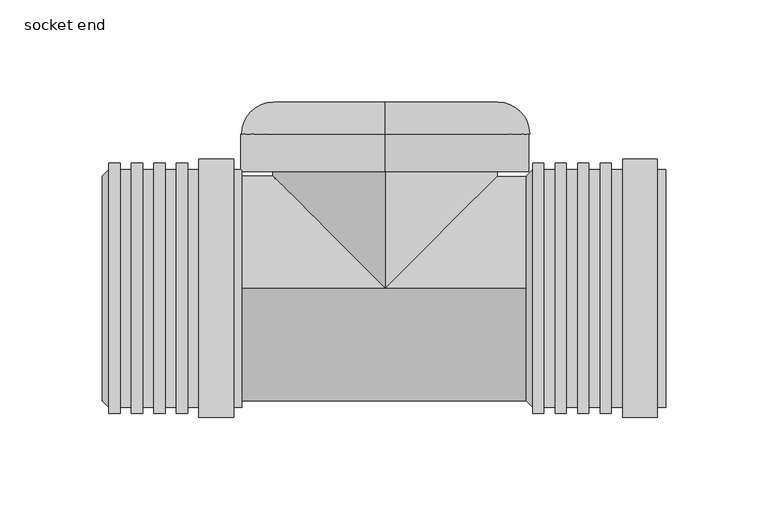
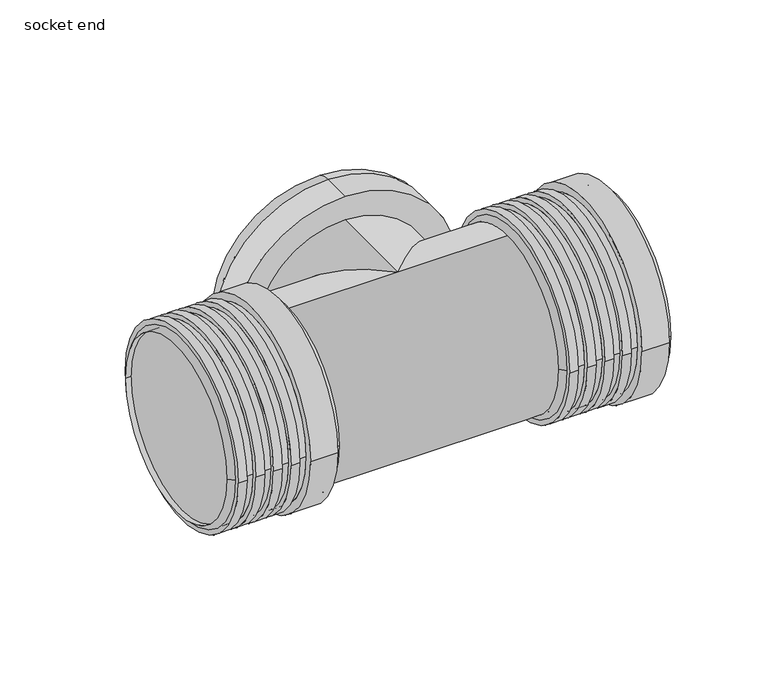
"""IFC4 building model written with IfcOpenShell, lengths in millimetres: pipe fitting geometry, Wavin SiTech+ RU Reinigungsrohr : socket end."""

from ifc_helpers import new_model, si_unit, point, frame, origin, place, context, project, spatial, polyline, circle_curve, ellipse_curve, trimmed, source, transform, mapped, element, save
from ifc_brep_helpers import plane_surface, cylinder_surface, revolved_surface, advanced_brep


def socket_end_d7354801(model_context):
    return source(origin(), model_context, "Body", "AdvancedBrep", [
        advanced_brep(
        [(68.789856, 55.0, 0.0), (68.789856, -55.0, 0.0), (137.0, -55.0, 0.0), (137.0, 55.0, 0.0), (72.0, 58.1, 0.0), (72.0, -58.1, 0.0), (77.5, 61.2, 0.0), (77.5, -61.2, 0.0), (72.0, -61.2, 0.0), (72.0, 61.2, 0.0), (83.0, 58.1, 0.0), (83.0, -58.1, 0.0), (77.5, -58.1, 0.0), (77.5, 58.1, 0.0), (88.5, 61.2, 0.0), (88.5, -61.2, 0.0), (83.0, -61.2, 0.0), (83.0, 61.2, 0.0), (94.0, 58.1, 0.0), (94.0, -58.1, 0.0), (88.5, -58.1, 0.0), (88.5, 58.1, 0.0), (99.5, 61.2, 0.0), (99.5, -61.2, 0.0), (94.0, -61.2, 0.0), (94.0, 61.2, 0.0), (105.0, 58.1, 0.0), (105.0, -58.1, 0.0), (99.5, -58.1, 0.0), (99.5, 58.1, 0.0), (110.5, 61.2, 0.0), (110.5, -61.2, 0.0), (105.0, -61.2, 0.0), (105.0, 61.2, 0.0), (116.0, 58.1, 0.0), (116.0, -58.1, 0.0), (110.5, -58.1, 0.0), (110.5, 58.1, 0.0), (133.0, 63.2, 0.0), (133.0, -63.2, 0.0), (116.0, -63.2, 0.0), (116.0, 63.2, 0.0), (137.0, 58.1, 0.0), (137.0, -58.1, 0.0), (133.0, -58.1, 0.0), (133.0, 58.1, 0.0)],
        [
            (0, 1, circle_curve(frame((68.789856, 0.0, 0.0), z_axis=(-1.0, 0.0, 0.0), x_axis=(0.0, -1.0000000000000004, 0.0)), 55.0)),
            (1, 2),
            (2, 3, circle_curve(frame((137.0, 0.0, 0.0), z_axis=(1.0, 0.0, 0.0), x_axis=(0.0, -1.0000000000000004, 0.0)), 55.0)),
            (3, 0),
            (4, 5, circle_curve(frame((72.0, 0.0, 0.0), z_axis=(-1.0, 0.0, 0.0), x_axis=(0.0, -1.0000000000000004, 0.0)), 58.1)),
            (5, 1),
            (0, 4),
            (6, 7, circle_curve(frame((77.5, 0.0, 0.0), z_axis=(-1.0, 0.0, 0.0), x_axis=(0.0, -1.0000000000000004, 0.0)), 61.2)),
            (7, 8),
            (8, 9, circle_curve(frame((72.0, 0.0, 0.0), z_axis=(1.0, 0.0, 0.0), x_axis=(0.0, -1.0000000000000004, 0.0)), 61.2)),
            (9, 6),
            (10, 11, circle_curve(frame((83.0, 0.0, 0.0), z_axis=(-1.0, 0.0, 0.0), x_axis=(0.0, -1.0000000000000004, 0.0)), 58.1)),
            (11, 12),
            (12, 13, circle_curve(frame((77.5, 0.0, 0.0), z_axis=(1.0, 0.0, 0.0), x_axis=(0.0, -1.0000000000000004, 0.0)), 58.1)),
            (13, 10),
            (14, 15, circle_curve(frame((88.5, 0.0, 0.0), z_axis=(-1.0, 0.0, 0.0), x_axis=(0.0, -1.0000000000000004, 0.0)), 61.2)),
            (15, 16),
            (16, 17, circle_curve(frame((83.0, 0.0, 0.0), z_axis=(1.0, 0.0, 0.0), x_axis=(0.0, -1.0000000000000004, 0.0)), 61.2)),
            (17, 14),
            (18, 19, circle_curve(frame((94.0, 0.0, 0.0), z_axis=(-1.0, 0.0, 0.0), x_axis=(0.0, -1.0000000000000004, 0.0)), 58.1)),
            (19, 20),
            (20, 21, circle_curve(frame((88.5, 0.0, 0.0), z_axis=(1.0, 0.0, 0.0), x_axis=(0.0, -1.0000000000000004, 0.0)), 58.1)),
            (21, 18),
            (22, 23, circle_curve(frame((99.5, 0.0, 0.0), z_axis=(-1.0, 0.0, 0.0), x_axis=(0.0, -1.0000000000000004, 0.0)), 61.2)),
            (23, 24),
            (24, 25, circle_curve(frame((94.0, 0.0, 0.0), z_axis=(1.0, 0.0, 0.0), x_axis=(0.0, -1.0000000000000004, 0.0)), 61.2)),
            (25, 22),
            (26, 27, circle_curve(frame((105.0, 0.0, 0.0), z_axis=(-1.0, 0.0, 0.0), x_axis=(0.0, -1.0000000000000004, 0.0)), 58.1)),
            (27, 28),
            (28, 29, circle_curve(frame((99.5, 0.0, 0.0), z_axis=(1.0, 0.0, 0.0), x_axis=(0.0, -1.0000000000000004, 0.0)), 58.1)),
            (29, 26),
            (30, 31, circle_curve(frame((110.5, 0.0, 0.0), z_axis=(-1.0, 0.0, 0.0), x_axis=(0.0, -1.0000000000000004, 0.0)), 61.2)),
            (31, 32),
            (32, 33, circle_curve(frame((105.0, 0.0, 0.0), z_axis=(1.0, 0.0, 0.0), x_axis=(0.0, -1.0000000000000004, 0.0)), 61.2)),
            (33, 30),
            (34, 35, circle_curve(frame((116.0, 0.0, 0.0), z_axis=(-1.0, 0.0, 0.0), x_axis=(0.0, -1.0000000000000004, 0.0)), 58.1)),
            (35, 36),
            (36, 37, circle_curve(frame((110.5, 0.0, 0.0), z_axis=(1.0, 0.0, 0.0), x_axis=(0.0, -1.0000000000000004, 0.0)), 58.1)),
            (37, 34),
            (38, 39, circle_curve(frame((133.0, 0.0, 0.0), z_axis=(-1.0, 0.0, 0.0), x_axis=(0.0, -1.0000000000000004, 0.0)), 63.2)),
            (39, 40),
            (40, 41, circle_curve(frame((116.0, 0.0, 0.0), z_axis=(1.0, 0.0, 0.0), x_axis=(0.0, -1.0000000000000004, 0.0)), 63.2)),
            (41, 38),
            (42, 43, circle_curve(frame((137.0, 0.0, 0.0), z_axis=(-1.0, 0.0, 0.0), x_axis=(0.0, -1.0000000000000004, 0.0)), 58.1)),
            (43, 44),
            (44, 45, circle_curve(frame((133.0, 0.0, 0.0), z_axis=(1.0, 0.0, 0.0), x_axis=(0.0, -1.0000000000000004, 0.0)), 58.1)),
            (45, 42),
            (1, 0, circle_curve(frame((68.789856, 0.0, 0.0), z_axis=(-1.0, 0.0, 0.0), x_axis=(0.0, 1.0000000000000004, 0.0)), 55.0)),
            (3, 2, circle_curve(frame((137.0, 0.0, 0.0), z_axis=(1.0, 0.0, 0.0), x_axis=(0.0, 1.0000000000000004, 0.0)), 55.0)),
            (5, 4, circle_curve(frame((72.0, 0.0, 0.0), z_axis=(-1.0, 0.0, 0.0), x_axis=(0.0, 1.0000000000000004, 0.0)), 58.1)),
            (8, 9, circle_curve(frame((72.0, 0.0, 0.0), z_axis=(-1.0, 0.0, 0.0), x_axis=(0.0, 1.0000000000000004, 0.0)), 61.2)),
            (7, 6, circle_curve(frame((77.5, 0.0, 0.0), z_axis=(-1.0, 0.0, 0.0), x_axis=(0.0, 1.0000000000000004, 0.0)), 61.2)),
            (12, 13, circle_curve(frame((77.5, 0.0, 0.0), z_axis=(-1.0, 0.0, 0.0), x_axis=(0.0, 1.0000000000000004, 0.0)), 58.1)),
            (11, 10, circle_curve(frame((83.0, 0.0, 0.0), z_axis=(-1.0, 0.0, 0.0), x_axis=(0.0, 1.0000000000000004, 0.0)), 58.1)),
            (16, 17, circle_curve(frame((83.0, 0.0, 0.0), z_axis=(-1.0, 0.0, 0.0), x_axis=(0.0, 1.0000000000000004, 0.0)), 61.2)),
            (15, 14, circle_curve(frame((88.5, 0.0, 0.0), z_axis=(-1.0, 0.0, 0.0), x_axis=(0.0, 1.0000000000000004, 0.0)), 61.2)),
            (20, 21, circle_curve(frame((88.5, 0.0, 0.0), z_axis=(-1.0, 0.0, 0.0), x_axis=(0.0, 1.0000000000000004, 0.0)), 58.1)),
            (19, 18, circle_curve(frame((94.0, 0.0, 0.0), z_axis=(-1.0, 0.0, 0.0), x_axis=(0.0, 1.0000000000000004, 0.0)), 58.1)),
            (24, 25, circle_curve(frame((94.0, 0.0, 0.0), z_axis=(-1.0, 0.0, 0.0), x_axis=(0.0, 1.0000000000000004, 0.0)), 61.2)),
            (23, 22, circle_curve(frame((99.5, 0.0, 0.0), z_axis=(-1.0, 0.0, 0.0), x_axis=(0.0, 1.0000000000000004, 0.0)), 61.2)),
            (28, 29, circle_curve(frame((99.5, 0.0, 0.0), z_axis=(-1.0, 0.0, 0.0), x_axis=(0.0, 1.0000000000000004, 0.0)), 58.1)),
            (27, 26, circle_curve(frame((105.0, 0.0, 0.0), z_axis=(-1.0, 0.0, 0.0), x_axis=(0.0, 1.0000000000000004, 0.0)), 58.1)),
            (32, 33, circle_curve(frame((105.0, 0.0, 0.0), z_axis=(-1.0, 0.0, 0.0), x_axis=(0.0, 1.0000000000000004, 0.0)), 61.2)),
            (31, 30, circle_curve(frame((110.5, 0.0, 0.0), z_axis=(-1.0, 0.0, 0.0), x_axis=(0.0, 1.0000000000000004, 0.0)), 61.2)),
            (36, 37, circle_curve(frame((110.5, 0.0, 0.0), z_axis=(-1.0, 0.0, 0.0), x_axis=(0.0, 1.0000000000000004, 0.0)), 58.1)),
            (35, 34, circle_curve(frame((116.0, 0.0, 0.0), z_axis=(-1.0, 0.0, 0.0), x_axis=(0.0, 1.0000000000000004, 0.0)), 58.1)),
            (40, 41, circle_curve(frame((116.0, 0.0, 0.0), z_axis=(-1.0, 0.0, 0.0), x_axis=(0.0, 1.0000000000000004, 0.0)), 63.2)),
            (39, 38, circle_curve(frame((133.0, 0.0, 0.0), z_axis=(-1.0, 0.0, 0.0), x_axis=(0.0, 1.0000000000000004, 0.0)), 63.2)),
            (44, 45, circle_curve(frame((133.0, 0.0, 0.0), z_axis=(-1.0, 0.0, 0.0), x_axis=(0.0, 1.0000000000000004, 0.0)), 58.1)),
            (43, 42, circle_curve(frame((137.0, 0.0, 0.0), z_axis=(-1.0, 0.0, 0.0), x_axis=(0.0, 1.0000000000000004, 0.0)), 58.1)),
        ],
        [
            revolved_surface(polyline([(137.0000000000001, -55.00000000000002, 0.0), (68.789856, -55.00000000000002, 0.0)]), (72.0, 0.0, 0.0), (1.0000000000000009, 0.0, 0.0)),
            revolved_surface(polyline([(68.789856, -55.0, 0.0), (72.0, -58.1, 0.0)]), (72.0, 0.0, 0.0), (1.0000000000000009, 0.0, 0.0)),
            cylinder_surface(frame((72.0, 0.0, 0.0), z_axis=(1.0000000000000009, 0.0, 0.0), x_axis=(0.0, -1.0000000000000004, 0.0)), 61.2),
            cylinder_surface(frame((72.0, 0.0, 0.0), z_axis=(1.0000000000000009, 0.0, 0.0), x_axis=(0.0, -1.0000000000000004, 0.0)), 58.1),
            cylinder_surface(frame((72.0, 0.0, 0.0), z_axis=(1.0000000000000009, 0.0, 0.0), x_axis=(0.0, -1.0000000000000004, 0.0)), 63.2),
            revolved_surface(polyline([(137.0000000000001, 55.00000000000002, 0.0), (68.789856, 55.00000000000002, 0.0)]), (72.0, 0.0, 0.0), (1.0000000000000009, 0.0, 0.0)),
            revolved_surface(polyline([(68.789856, 55.0, 0.0), (72.0, 58.1, 0.0)]), (72.0, 0.0, 0.0), (1.0000000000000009, 0.0, 0.0)),
            plane_surface(frame((72.0, 0.0, 0.0), z_axis=(-1.0, 0.0, 0.0), x_axis=(0.0, 1.0, 0.0))),
            cylinder_surface(frame((72.0, 0.0, 0.0), z_axis=(1.0000000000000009, 0.0, 0.0), x_axis=(0.0, 1.0000000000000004, 0.0)), 61.2),
            plane_surface(frame((77.5, 0.0, 0.0), z_axis=(1.0, 0.0, 0.0), x_axis=(0.0, 1.0, 0.0))),
            cylinder_surface(frame((72.0, 0.0, 0.0), z_axis=(1.0000000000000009, 0.0, 0.0), x_axis=(0.0, 1.0000000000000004, 0.0)), 58.1),
            plane_surface(frame((83.0, 0.0, 0.0), z_axis=(-1.0, 0.0, 0.0), x_axis=(0.0, 1.0, 0.0))),
            plane_surface(frame((88.5, 0.0, 0.0), z_axis=(1.0, 0.0, 0.0), x_axis=(0.0, 1.0, 0.0))),
            plane_surface(frame((94.0, 0.0, 0.0), z_axis=(-1.0, 0.0, 0.0), x_axis=(0.0, 1.0, 0.0))),
            plane_surface(frame((99.5, 0.0, 0.0), z_axis=(1.0, 0.0, 0.0), x_axis=(0.0, 1.0, 0.0))),
            plane_surface(frame((105.0, 0.0, 0.0), z_axis=(-1.0, 0.0, 0.0), x_axis=(0.0, 1.0, 0.0))),
            plane_surface(frame((110.5, 0.0, 0.0), z_axis=(1.0, 0.0, 0.0), x_axis=(0.0, 1.0, 0.0))),
            plane_surface(frame((116.0, 0.0, 0.0), z_axis=(-1.0, 0.0, 0.0), x_axis=(0.0, 1.0, 0.0))),
            cylinder_surface(frame((72.0, 0.0, 0.0), z_axis=(1.0000000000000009, 0.0, 0.0), x_axis=(0.0, 1.0000000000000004, 0.0)), 63.2),
            plane_surface(frame((133.0, 0.0, 0.0), z_axis=(1.0, 0.0, 0.0), x_axis=(0.0, 1.0, 0.0))),
            plane_surface(frame((137.0, 0.0, 0.0), z_axis=(1.0, 0.0, 0.0), x_axis=(0.0, 1.0, 0.0))),
        ],
        [
            (0, [[1, 2, 3, 4]]),
            (1, [[5, 6, -1, 7]]),
            (2, [[8, 9, 10, 11]]),
            (3, [[12, 13, 14, 15]]),
            (2, [[16, 17, 18, 19]]),
            (3, [[20, 21, 22, 23]]),
            (2, [[24, 25, 26, 27]]),
            (3, [[28, 29, 30, 31]]),
            (2, [[32, 33, 34, 35]]),
            (3, [[36, 37, 38, 39]]),
            (4, [[40, 41, 42, 43]]),
            (3, [[44, 45, 46, 47]]),
            (5, [[48, -4, 49, -2]]),
            (6, [[50, -7, -48, -6]]),
            (7, [[51, -10], [-50, -5]]),
            (8, [[52, -11, -51, -9]]),
            (9, [[-52, -8], [53, -14]]),
            (10, [[54, -15, -53, -13]]),
            (11, [[55, -18], [-54, -12]]),
            (8, [[56, -19, -55, -17]]),
            (12, [[-56, -16], [57, -22]]),
            (10, [[58, -23, -57, -21]]),
            (13, [[59, -26], [-58, -20]]),
            (8, [[60, -27, -59, -25]]),
            (14, [[-60, -24], [61, -30]]),
            (10, [[62, -31, -61, -29]]),
            (15, [[63, -34], [-62, -28]]),
            (8, [[64, -35, -63, -33]]),
            (16, [[-64, -32], [65, -38]]),
            (10, [[66, -39, -65, -37]]),
            (17, [[67, -42], [-66, -36]]),
            (18, [[68, -43, -67, -41]]),
            (19, [[-68, -40], [69, -46]]),
            (10, [[70, -47, -69, -45]]),
            (20, [[-70, -44], [-49, -3]]),
        ],
    ),
        advanced_brep(
        [(-138.210144, 55.0, 0.0), (-138.210144, -55.0, 0.0), (-70.0, -55.0, 0.0), (-70.0, 55.0, 0.0), (-135.0, 58.1, 0.0), (-135.0, -58.1, 0.0), (-129.5, 61.2, 0.0), (-129.5, -61.2, 0.0), (-135.0, -61.2, 0.0), (-135.0, 61.2, 0.0), (-124.0, 58.1, 0.0), (-124.0, -58.1, 0.0), (-129.5, -58.1, 0.0), (-129.5, 58.1, 0.0), (-118.5, 61.2, 0.0), (-118.5, -61.2, 0.0), (-124.0, -61.2, 0.0), (-124.0, 61.2, 0.0), (-113.0, 58.1, 0.0), (-113.0, -58.1, 0.0), (-118.5, -58.1, 0.0), (-118.5, 58.1, 0.0), (-107.5, 61.2, 0.0), (-107.5, -61.2, 0.0), (-113.0, -61.2, 0.0), (-113.0, 61.2, 0.0), (-102.0, 58.1, 0.0), (-102.0, -58.1, 0.0), (-107.5, -58.1, 0.0), (-107.5, 58.1, 0.0), (-96.5, 61.2, 0.0), (-96.5, -61.2, 0.0), (-102.0, -61.2, 0.0), (-102.0, 61.2, 0.0), (-91.0, 58.1, 0.0), (-91.0, -58.1, 0.0), (-96.5, -58.1, 0.0), (-96.5, 58.1, 0.0), (-74.0, 63.2, 0.0), (-74.0, -63.2, 0.0), (-91.0, -63.2, 0.0), (-91.0, 63.2, 0.0), (-70.0, 58.1, 0.0), (-70.0, -58.1, 0.0), (-74.0, -58.1, 0.0), (-74.0, 58.1, 0.0)],
        [
            (0, 1, circle_curve(frame((-138.210144, 0.0, 0.0), z_axis=(-1.0, 0.0, 0.0), x_axis=(0.0, -1.0, 0.0)), 55.0)),
            (1, 2),
            (2, 3, circle_curve(frame((-70.0, 0.0, 0.0), z_axis=(1.0, 0.0, 0.0), x_axis=(0.0, -1.0, 0.0)), 55.0)),
            (3, 0),
            (4, 5, circle_curve(frame((-135.0, 0.0, 0.0), z_axis=(-1.0, 0.0, 0.0), x_axis=(0.0, -1.0, 0.0)), 58.1)),
            (5, 1),
            (0, 4),
            (6, 7, circle_curve(frame((-129.5, 0.0, 0.0), z_axis=(-1.0, 0.0, 0.0), x_axis=(0.0, -1.0, 0.0)), 61.2)),
            (7, 8),
            (8, 9, circle_curve(frame((-135.0, 0.0, 0.0), z_axis=(1.0, 0.0, 0.0), x_axis=(0.0, -1.0, 0.0)), 61.2)),
            (9, 6),
            (10, 11, circle_curve(frame((-124.0, 0.0, 0.0), z_axis=(-1.0, 0.0, 0.0), x_axis=(0.0, -1.0, 0.0)), 58.1)),
            (11, 12),
            (12, 13, circle_curve(frame((-129.5, 0.0, 0.0), z_axis=(1.0, 0.0, 0.0), x_axis=(0.0, -1.0, 0.0)), 58.1)),
            (13, 10),
            (14, 15, circle_curve(frame((-118.5, 0.0, 0.0), z_axis=(-1.0, 0.0, 0.0), x_axis=(0.0, -1.0, 0.0)), 61.2)),
            (15, 16),
            (16, 17, circle_curve(frame((-124.0, 0.0, 0.0), z_axis=(1.0, 0.0, 0.0), x_axis=(0.0, -1.0, 0.0)), 61.2)),
            (17, 14),
            (18, 19, circle_curve(frame((-113.0, 0.0, 0.0), z_axis=(-1.0, 0.0, 0.0), x_axis=(0.0, -1.0, 0.0)), 58.1)),
            (19, 20),
            (20, 21, circle_curve(frame((-118.5, 0.0, 0.0), z_axis=(1.0, 0.0, 0.0), x_axis=(0.0, -1.0, 0.0)), 58.1)),
            (21, 18),
            (22, 23, circle_curve(frame((-107.5, 0.0, 0.0), z_axis=(-1.0, 0.0, 0.0), x_axis=(0.0, -1.0, 0.0)), 61.2)),
            (23, 24),
            (24, 25, circle_curve(frame((-113.0, 0.0, 0.0), z_axis=(1.0, 0.0, 0.0), x_axis=(0.0, -1.0, 0.0)), 61.2)),
            (25, 22),
            (26, 27, circle_curve(frame((-102.0, 0.0, 0.0), z_axis=(-1.0, 0.0, 0.0), x_axis=(0.0, -1.0, 0.0)), 58.1)),
            (27, 28),
            (28, 29, circle_curve(frame((-107.5, 0.0, 0.0), z_axis=(1.0, 0.0, 0.0), x_axis=(0.0, -1.0, 0.0)), 58.1)),
            (29, 26),
            (30, 31, circle_curve(frame((-96.5, 0.0, 0.0), z_axis=(-1.0, 0.0, 0.0), x_axis=(0.0, -1.0, 0.0)), 61.2)),
            (31, 32),
            (32, 33, circle_curve(frame((-102.0, 0.0, 0.0), z_axis=(1.0, 0.0, 0.0), x_axis=(0.0, -1.0, 0.0)), 61.2)),
            (33, 30),
            (34, 35, circle_curve(frame((-91.0, 0.0, 0.0), z_axis=(-1.0, 0.0, 0.0), x_axis=(0.0, -1.0, 0.0)), 58.1)),
            (35, 36),
            (36, 37, circle_curve(frame((-96.5, 0.0, 0.0), z_axis=(1.0, 0.0, 0.0), x_axis=(0.0, -1.0, 0.0)), 58.1)),
            (37, 34),
            (38, 39, circle_curve(frame((-74.0, 0.0, 0.0), z_axis=(-1.0, 0.0, 0.0), x_axis=(0.0, -1.0, 0.0)), 63.2)),
            (39, 40),
            (40, 41, circle_curve(frame((-91.0, 0.0, 0.0), z_axis=(1.0, 0.0, 0.0), x_axis=(0.0, -1.0, 0.0)), 63.2)),
            (41, 38),
            (42, 43, circle_curve(frame((-70.0, 0.0, 0.0), z_axis=(-1.0, 0.0, 0.0), x_axis=(0.0, -1.0, 0.0)), 58.1)),
            (43, 44),
            (44, 45, circle_curve(frame((-74.0, 0.0, 0.0), z_axis=(1.0, 0.0, 0.0), x_axis=(0.0, -1.0, 0.0)), 58.1)),
            (45, 42),
            (1, 0, circle_curve(frame((-138.210144, 0.0, 0.0), z_axis=(-1.0, 0.0, 0.0), x_axis=(0.0, 1.0, 0.0)), 55.0)),
            (3, 2, circle_curve(frame((-70.0, 0.0, 0.0), z_axis=(1.0, 0.0, 0.0), x_axis=(0.0, 1.0, 0.0)), 55.0)),
            (5, 4, circle_curve(frame((-135.0, 0.0, 0.0), z_axis=(-1.0, 0.0, 0.0), x_axis=(0.0, 1.0, 0.0)), 58.1)),
            (8, 9, circle_curve(frame((-135.0, 0.0, 0.0), z_axis=(-1.0, 0.0, 0.0), x_axis=(0.0, 1.0, 0.0)), 61.2)),
            (7, 6, circle_curve(frame((-129.5, 0.0, 0.0), z_axis=(-1.0, 0.0, 0.0), x_axis=(0.0, 1.0, 0.0)), 61.2)),
            (12, 13, circle_curve(frame((-129.5, 0.0, 0.0), z_axis=(-1.0, 0.0, 0.0), x_axis=(0.0, 1.0, 0.0)), 58.1)),
            (11, 10, circle_curve(frame((-124.0, 0.0, 0.0), z_axis=(-1.0, 0.0, 0.0), x_axis=(0.0, 1.0, 0.0)), 58.1)),
            (16, 17, circle_curve(frame((-124.0, 0.0, 0.0), z_axis=(-1.0, 0.0, 0.0), x_axis=(0.0, 1.0, 0.0)), 61.2)),
            (15, 14, circle_curve(frame((-118.5, 0.0, 0.0), z_axis=(-1.0, 0.0, 0.0), x_axis=(0.0, 1.0, 0.0)), 61.2)),
            (20, 21, circle_curve(frame((-118.5, 0.0, 0.0), z_axis=(-1.0, 0.0, 0.0), x_axis=(0.0, 1.0, 0.0)), 58.1)),
            (19, 18, circle_curve(frame((-113.0, 0.0, 0.0), z_axis=(-1.0, 0.0, 0.0), x_axis=(0.0, 1.0, 0.0)), 58.1)),
            (24, 25, circle_curve(frame((-113.0, 0.0, 0.0), z_axis=(-1.0, 0.0, 0.0), x_axis=(0.0, 1.0, 0.0)), 61.2)),
            (23, 22, circle_curve(frame((-107.5, 0.0, 0.0), z_axis=(-1.0, 0.0, 0.0), x_axis=(0.0, 1.0, 0.0)), 61.2)),
            (28, 29, circle_curve(frame((-107.5, 0.0, 0.0), z_axis=(-1.0, 0.0, 0.0), x_axis=(0.0, 1.0, 0.0)), 58.1)),
            (27, 26, circle_curve(frame((-102.0, 0.0, 0.0), z_axis=(-1.0, 0.0, 0.0), x_axis=(0.0, 1.0, 0.0)), 58.1)),
            (32, 33, circle_curve(frame((-102.0, 0.0, 0.0), z_axis=(-1.0, 0.0, 0.0), x_axis=(0.0, 1.0, 0.0)), 61.2)),
            (31, 30, circle_curve(frame((-96.5, 0.0, 0.0), z_axis=(-1.0, 0.0, 0.0), x_axis=(0.0, 1.0, 0.0)), 61.2)),
            (36, 37, circle_curve(frame((-96.5, 0.0, 0.0), z_axis=(-1.0, 0.0, 0.0), x_axis=(0.0, 1.0, 0.0)), 58.1)),
            (35, 34, circle_curve(frame((-91.0, 0.0, 0.0), z_axis=(-1.0, 0.0, 0.0), x_axis=(0.0, 1.0, 0.0)), 58.1)),
            (40, 41, circle_curve(frame((-91.0, 0.0, 0.0), z_axis=(-1.0, 0.0, 0.0), x_axis=(0.0, 1.0, 0.0)), 63.2)),
            (39, 38, circle_curve(frame((-74.0, 0.0, 0.0), z_axis=(-1.0, 0.0, 0.0), x_axis=(0.0, 1.0, 0.0)), 63.2)),
            (44, 45, circle_curve(frame((-74.0, 0.0, 0.0), z_axis=(-1.0, 0.0, 0.0), x_axis=(0.0, 1.0, 0.0)), 58.1)),
            (43, 42, circle_curve(frame((-70.0, 0.0, 0.0), z_axis=(-1.0, 0.0, 0.0), x_axis=(0.0, 1.0, 0.0)), 58.1)),
        ],
        [
            revolved_surface(polyline([(-70.0, -55.0, 0.0), (-138.210144, -55.0, 0.0)]), (-135.0, 0.0, 0.0), (1.0, 0.0, 0.0)),
            revolved_surface(polyline([(-138.210144, -55.0, 0.0), (-135.0, -58.1, 0.0)]), (-135.0, 0.0, 0.0), (1.0, 0.0, 0.0)),
            cylinder_surface(frame((-135.0, 0.0, 0.0), z_axis=(1.0, 0.0, 0.0), x_axis=(0.0, -1.0, 0.0)), 61.2),
            cylinder_surface(frame((-135.0, 0.0, 0.0), z_axis=(1.0, 0.0, 0.0), x_axis=(0.0, -1.0, 0.0)), 58.1),
            cylinder_surface(frame((-135.0, 0.0, 0.0), z_axis=(1.0, 0.0, 0.0), x_axis=(0.0, -1.0, 0.0)), 63.2),
            revolved_surface(polyline([(-70.0, 55.0, 0.0), (-138.210144, 55.0, 0.0)]), (-135.0, 0.0, 0.0), (1.0, 0.0, 0.0)),
            revolved_surface(polyline([(-138.210144, 55.0, 0.0), (-135.0, 58.1, 0.0)]), (-135.0, 0.0, 0.0), (1.0, 0.0, 0.0)),
            plane_surface(frame((-135.0, 0.0, 0.0), z_axis=(-1.0, 0.0, 0.0), x_axis=(0.0, 1.0, 0.0))),
            cylinder_surface(frame((-135.0, 0.0, 0.0), z_axis=(1.0, 0.0, 0.0), x_axis=(0.0, 1.0, 0.0)), 61.2),
            plane_surface(frame((-129.5, 0.0, 0.0), z_axis=(1.0, 0.0, 0.0), x_axis=(0.0, 1.0, 0.0))),
            cylinder_surface(frame((-135.0, 0.0, 0.0), z_axis=(1.0, 0.0, 0.0), x_axis=(0.0, 1.0, 0.0)), 58.1),
            plane_surface(frame((-124.0, 0.0, 0.0), z_axis=(-1.0, 0.0, 0.0), x_axis=(0.0, 1.0, 0.0))),
            plane_surface(frame((-118.5, 0.0, 0.0), z_axis=(1.0, 0.0, 0.0), x_axis=(0.0, 1.0, 0.0))),
            plane_surface(frame((-113.0, 0.0, 0.0), z_axis=(-1.0, 0.0, 0.0), x_axis=(0.0, 1.0, 0.0))),
            plane_surface(frame((-107.5, 0.0, 0.0), z_axis=(1.0, 0.0, 0.0), x_axis=(0.0, 1.0, 0.0))),
            plane_surface(frame((-102.0, 0.0, 0.0), z_axis=(-1.0, 0.0, 0.0), x_axis=(0.0, 1.0, 0.0))),
            plane_surface(frame((-96.5, 0.0, 0.0), z_axis=(1.0, 0.0, 0.0), x_axis=(0.0, 1.0, 0.0))),
            plane_surface(frame((-91.0, 0.0, 0.0), z_axis=(-1.0, 0.0, 0.0), x_axis=(0.0, 1.0, 0.0))),
            cylinder_surface(frame((-135.0, 0.0, 0.0), z_axis=(1.0, 0.0, 0.0), x_axis=(0.0, 1.0, 0.0)), 63.2),
            plane_surface(frame((-74.0, 0.0, 0.0), z_axis=(1.0, 0.0, 0.0), x_axis=(0.0, 1.0, 0.0))),
            plane_surface(frame((-70.0, 0.0, 0.0), z_axis=(1.0, 0.0, 0.0), x_axis=(0.0, 1.0, 0.0))),
        ],
        [
            (0, [[1, 2, 3, 4]]),
            (1, [[5, 6, -1, 7]]),
            (2, [[8, 9, 10, 11]]),
            (3, [[12, 13, 14, 15]]),
            (2, [[16, 17, 18, 19]]),
            (3, [[20, 21, 22, 23]]),
            (2, [[24, 25, 26, 27]]),
            (3, [[28, 29, 30, 31]]),
            (2, [[32, 33, 34, 35]]),
            (3, [[36, 37, 38, 39]]),
            (4, [[40, 41, 42, 43]]),
            (3, [[44, 45, 46, 47]]),
            (5, [[48, -4, 49, -2]]),
            (6, [[50, -7, -48, -6]]),
            (7, [[51, -10], [-50, -5]]),
            (8, [[52, -11, -51, -9]]),
            (9, [[-52, -8], [53, -14]]),
            (10, [[54, -15, -53, -13]]),
            (11, [[55, -18], [-54, -12]]),
            (8, [[56, -19, -55, -17]]),
            (12, [[-56, -16], [57, -22]]),
            (10, [[58, -23, -57, -21]]),
            (13, [[59, -26], [-58, -20]]),
            (8, [[60, -27, -59, -25]]),
            (14, [[-60, -24], [61, -30]]),
            (10, [[62, -31, -61, -29]]),
            (15, [[63, -34], [-62, -28]]),
            (8, [[64, -35, -63, -33]]),
            (16, [[-64, -32], [65, -38]]),
            (10, [[66, -39, -65, -37]]),
            (17, [[67, -42], [-66, -36]]),
            (18, [[68, -43, -67, -41]]),
            (19, [[-68, -40], [69, -46]]),
            (10, [[70, -47, -69, -45]]),
            (20, [[-70, -44], [-49, -3]]),
        ],
    ),
        advanced_brep(
        [(72.0, 0.0, -55.0), (72.0, 0.0, 55.0), (-135.0, 0.0, -55.0), (-135.0, 0.0, 55.0), (0.0, 0.0, 55.0), (0.0, 0.0, -55.0), (0.0, 91.0, 55.0), (0.0, 91.0, -55.0), (0.0, 57.0, 55.0), (0.0, 57.0, -55.0), (0.0, 75.5, 70.5), (0.0, 75.5, -70.5), (0.0, 57.0, 70.5), (0.0, 57.0, -70.5)],
        [
            (0, 1, circle_curve(frame((72.0, 0.0, 0.0), z_axis=(1.0, 0.0, 0.0), x_axis=(0.0, 0.0, 1.0)), 55.0)),
            (1, 0, circle_curve(frame((72.0, 0.0, 0.0), z_axis=(1.0, 0.0, 0.0), x_axis=(0.0, 0.0, 1.0)), 55.0)),
            (2, 3, circle_curve(frame((-135.0, 0.0, 0.0), z_axis=(-1.0, 0.0, 0.0), x_axis=(0.0, 0.0, 1.0)), 55.0)),
            (3, 2, circle_curve(frame((-135.0, 0.0, 0.0), z_axis=(-1.0, 0.0, 0.0), x_axis=(0.0, 0.0, 1.0)), 55.0)),
            (1, 4),
            (4, 3),
            (2, 5),
            (5, 0),
            (5, 4, ellipse_curve(frame((0.0, 0.0, 0.0), z_axis=(0.7071067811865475, -0.7071067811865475, 0.0), x_axis=(-0.7071067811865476, -0.7071067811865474, 0.0)), 77.7817459, 55.0)),
            (4, 5, ellipse_curve(frame((0.0, 0.0, 0.0), z_axis=(-0.7071067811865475, -0.7071067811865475, 0.0), x_axis=(-0.7071067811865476, 0.7071067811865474, 0.0)), 77.7817459, 55.0)),
            (6, 7, circle_curve(frame((0.0, 91.0, 0.0), z_axis=(0.0, 1.0, 0.0), x_axis=(0.0, 0.0, -1.0)), 55.0)),
            (7, 6, circle_curve(frame((0.0, 91.0, 0.0), z_axis=(0.0, 1.0, 0.0), x_axis=(0.0, 0.0, 1.0)), 55.0)),
            (4, 8),
            (8, 9, circle_curve(frame((0.0, 57.0, 0.0), z_axis=(0.0, -1.0, 0.0), x_axis=(0.0, 0.0, 1.0)), 55.0)),
            (9, 5),
            (9, 8, circle_curve(frame((0.0, 57.0, 0.0), z_axis=(0.0, -1.0, 0.0), x_axis=(0.0, 0.0, 1.0)), 55.0)),
            (10, 11, circle_curve(frame((0.0, 75.5, 0.0), z_axis=(0.0, 1.0, 0.0), x_axis=(0.0, 0.0, -1.0)), 70.5)),
            (11, 7, circle_curve(frame((0.0, 75.5, -55.0), z_axis=(1.0, 0.0, 0.0), x_axis=(0.0, 0.0, 1.0)), 15.5)),
            (6, 10, circle_curve(frame((0.0, 75.5, 55.0), z_axis=(1.0, 0.0, 0.0), x_axis=(0.0, 0.0, -1.0)), 15.5)),
            (10, 12),
            (12, 13, circle_curve(frame((0.0, 57.0, 0.0), z_axis=(0.0, 1.0, 0.0), x_axis=(0.0, 0.0, -1.0)), 70.5)),
            (13, 11),
            (11, 10, circle_curve(frame((0.0, 75.5, 0.0), z_axis=(0.0, 1.0, 0.0), x_axis=(0.0, 0.0, 1.0)), 70.5)),
            (13, 12, circle_curve(frame((0.0, 57.0, 0.0), z_axis=(0.0, 1.0, 0.0), x_axis=(0.0, 0.0, 1.0)), 70.5)),
        ],
        [
            plane_surface(frame((72.0, 0.0, 55.0), z_axis=(1.0, 0.0, 0.0), x_axis=(0.0, -1.0, 0.0))),
            plane_surface(frame((-135.0, 0.0, 55.0), z_axis=(-1.0, 0.0, 0.0), x_axis=(0.0, 1.0, 0.0))),
            cylinder_surface(frame((72.0, 0.0, 0.0), z_axis=(-1.0, 0.0, 0.0), x_axis=(0.0, 0.0, 1.0)), 55.0),
            plane_surface(frame((0.0, 91.0, 55.0), z_axis=(0.0, 1.0, 0.0), x_axis=(1.0, 0.0, 0.0))),
            cylinder_surface(frame((0.0, 0.0, 0.0), z_axis=(0.0, 1.0, 0.0), x_axis=(0.0, 0.0, 1.0)), 55.0),
            revolved_surface(trimmed(ellipse_curve(frame((0.0, 75.5, -55.0), z_axis=(-1.0, 0.0, 0.0), x_axis=(0.0, 0.0, 1.0)), 15.5, 15.5), [point((0.0, 91.0, -55.0))], [point((0.0, 75.5, -70.5))], True, "CARTESIAN"), (0.0, 91.0, 0.0), (0.0, -1.0, 0.0)),
            cylinder_surface(frame((0.0, 91.0, 0.0), z_axis=(0.0, -1.0, 0.0), x_axis=(0.0, 0.0, -1.0)), 70.5),
            revolved_surface(trimmed(ellipse_curve(frame((0.0, 75.5, 55.0), z_axis=(1.0, 0.0, 0.0), x_axis=(0.0, 0.0, -1.0)), 15.5, 15.5), [point((0.0, 91.0, 55.0))], [point((0.0, 75.5, 70.5))], True, "CARTESIAN"), (0.0, 91.0, 0.0), (0.0, -1.0, 0.0)),
            cylinder_surface(frame((0.0, 91.0, 0.0), z_axis=(0.0, -1.0, 0.0), x_axis=(0.0, 0.0, 1.0)), 70.5),
            plane_surface(frame((0.0, 57.0, 0.0), z_axis=(0.0, -1.0, 0.0), x_axis=(0.0, 0.0, 1.0))),
        ],
        [
            (0, [[1, 2]]),
            (1, [[3, 4]]),
            (2, [[-2, 5, 6, -3, 7, 8]]),
            (2, [[-1, -8, 9, -5]]),
            (2, [[-4, -6, 10, -7]]),
            (3, [[11, 12]]),
            (4, [[-10, 13, 14, 15]]),
            (4, [[-9, -15, 16, -13]]),
            (5, [[17, 18, -11, 19]]),
            (6, [[-17, 20, 21, 22]]),
            (7, [[-18, 23, -19, -12]]),
            (8, [[-22, 24, -20, -23]]),
            (9, [[-21, -24], [-14, -16]]),
        ],
    ),
    ])


if __name__ == "__main__":
    model = new_model("IFC4")
    model_context = context("Model", 3, world=origin())
    ifc_project = project(units=[si_unit("LENGTHUNIT", "METRE", prefix="MILLI")], contexts=[model_context])
    site = spatial("IfcSite", under=ifc_project)
    building = spatial("IfcBuilding", under=site)
    placement = place(None, origin())
    socket_end_shape = socket_end_d7354801(model_context)
    element("IfcPipeFitting", 1, ObjectType="Wavin SiTech+ RU Reinigungsrohr : socket end", at=placement, inside=building, context=model_context, shape_type="MappedRepresentation", body=[
        mapped(socket_end_shape, transform((0.0, 0.0, 0.0), x_axis=(1.0, 0.0, 0.0), y_axis=(0.0, 1.0, 0.0), z_axis=(0.0, 0.0, 1.0))),
    ])
    save(model, "model.ifc")
